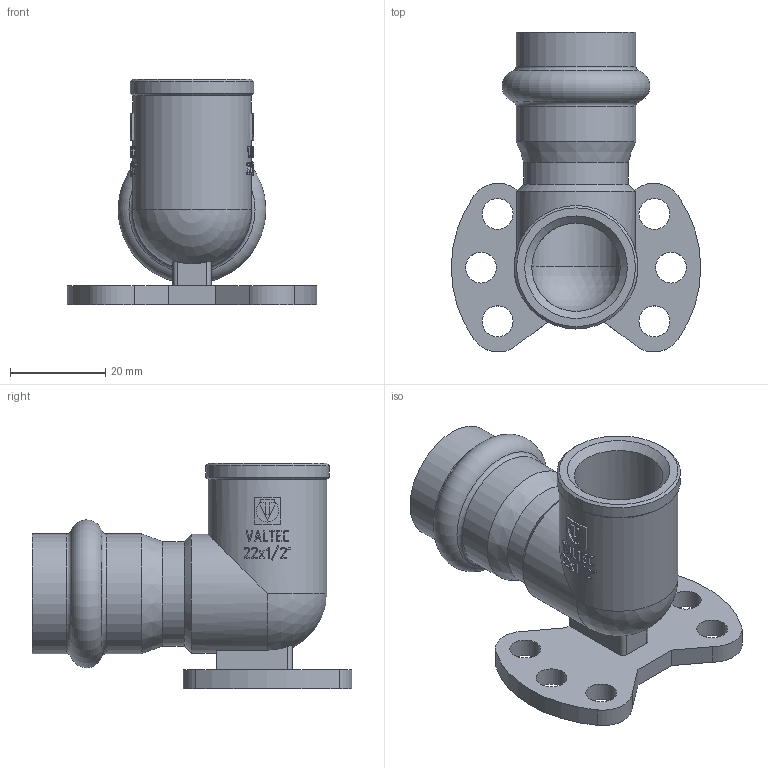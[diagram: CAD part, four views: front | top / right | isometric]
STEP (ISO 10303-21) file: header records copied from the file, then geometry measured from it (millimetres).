
FILE_DESCRIPTION(('STEP AP203'), '1');
FILE_NAME('VTi.954.I.002204', '', ('UNSPECIFIED'), ('UNSPECIFIED'), 'C3D Converter', 'C3D Toolkit', '');
FILE_SCHEMA(('CONFIG_CONTROL_DESIGN'));
Length unit declared in the file: millimetre
Bounding box: 52.5 x 67.23 x 47.5 mm (x, y, z)
Volume: 19191.3 mm3; surface area: 15420.6 mm2
Topology: 1 solids, 1 shells, 675 faces, 1895 edges, 1257 vertices
Faces by surface type: extrusion 376, plane 221, cylinder 62, torus 7, cone 6, sphere 3
Full cylindrical faces by diameter (mm): 6.5 x6, 18.6 x1, 19.1 x1, 22 x1, 22.3 x2, 25 x2, 25.2 x2, 26 x1
Entity records: 28235 total; most frequent: CARTESIAN_POINT 12905, ORIENTED_EDGE 3730, DIRECTION 2024, EDGE_CURVE 1865, VERTEX_POINT 1257, B_SPLINE_CURVE_WITH_KNOTS 1138, VECTOR 1066, EDGE_LOOP 754
